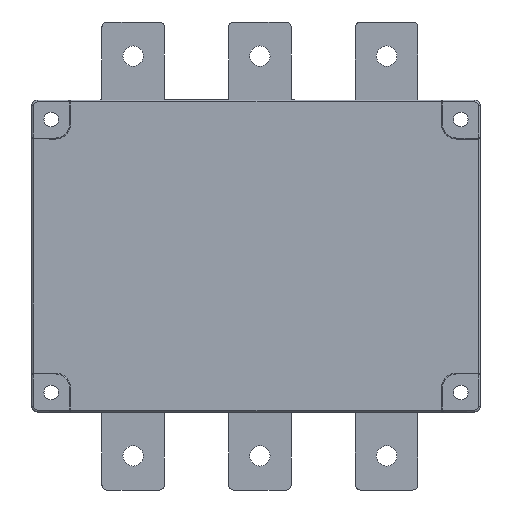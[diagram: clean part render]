
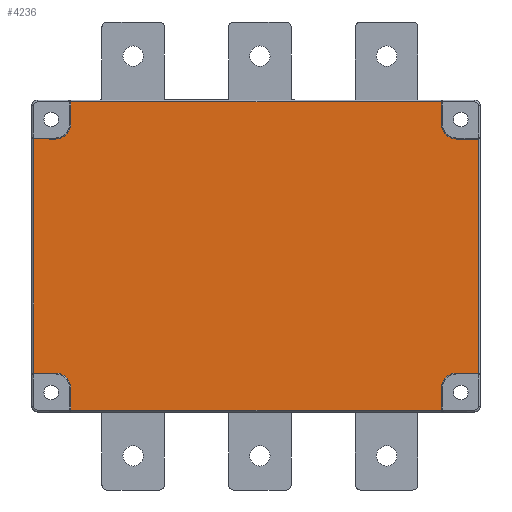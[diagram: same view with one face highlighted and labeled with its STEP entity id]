
A CAD part, front view. The second image highlights one B-rep face of the part: STEP entity #4236.
In plain terms, the highlighted planar face has unit normal (0, -1, 0).
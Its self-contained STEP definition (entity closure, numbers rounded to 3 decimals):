
#1112=DIRECTION('',(0.,0.,-1.));
#1113=VECTOR('',#1112,120.);
#1114=CARTESIAN_POINT('',(-114.,2.,60.));
#1115=LINE('',#1114,#1113);
#1129=DIRECTION('',(0.,0.,-1.));
#1130=VECTOR('',#1129,11.);
#1131=CARTESIAN_POINT('',(95.,2.,79.));
#1132=LINE('',#1131,#1130);
#1133=CARTESIAN_POINT('',(103.,2.,68.));
#1134=DIRECTION('',(0.,-1.,0.));
#1135=DIRECTION('',(-1.,0.,0.));
#1136=AXIS2_PLACEMENT_3D('',#1133,#1134,#1135);
#1138=DIRECTION('',(1.,0.,0.));
#1139=VECTOR('',#1138,11.);
#1140=CARTESIAN_POINT('',(103.,2.,60.));
#1141=LINE('',#1140,#1139);
#1142=DIRECTION('',(-1.,0.,0.));
#1143=VECTOR('',#1142,11.);
#1144=CARTESIAN_POINT('',(114.,2.,-60.));
#1145=LINE('',#1144,#1143);
#1146=CARTESIAN_POINT('',(103.,2.,-68.));
#1147=DIRECTION('',(0.,-1.,0.));
#1148=DIRECTION('',(0.,0.,1.));
#1149=AXIS2_PLACEMENT_3D('',#1146,#1147,#1148);
#1151=DIRECTION('',(0.,0.,-1.));
#1152=VECTOR('',#1151,11.);
#1153=CARTESIAN_POINT('',(95.,2.,-68.));
#1154=LINE('',#1153,#1152);
#1155=DIRECTION('',(0.,0.,1.));
#1156=VECTOR('',#1155,11.);
#1157=CARTESIAN_POINT('',(-95.,2.,
-79.));
#1158=LINE('',#1157,#1156);
#1159=CARTESIAN_POINT('',(-103.,2.,-68.));
#1160=DIRECTION('',(0.,-1.,0.));
#1161=DIRECTION('',(1.,0.,0.));
#1162=AXIS2_PLACEMENT_3D('',#1159,#1160,#1161);
#1164=DIRECTION('',(-1.,0.,0.));
#1165=VECTOR('',#1164,11.);
#1166=CARTESIAN_POINT('',(-103.,2.,-60.));
#1167=LINE('',#1166,#1165);
#1168=DIRECTION('',(1.,0.,0.));
#1169=VECTOR('',#1168,11.);
#1170=CARTESIAN_POINT('',(-114.,2.,60.));
#1171=LINE('',#1170,#1169);
#1172=CARTESIAN_POINT('',(-103.,2.,68.));
#1173=DIRECTION('',(0.,-1.,0.));
#1174=DIRECTION('',(0.,0.,-1.));
#1175=AXIS2_PLACEMENT_3D('',#1172,#1173,#1174);
#1177=DIRECTION('',(0.,0.,1.));
#1178=VECTOR('',#1177,11.);
#1179=CARTESIAN_POINT('',(-95.,2.,68.));
#1180=LINE('',#1179,#1178);
#1181=DIRECTION('',(-1.,0.,0.));
#1182=VECTOR('',#1181,190.);
#1183=CARTESIAN_POINT('',(95.,2.,79.));
#1184=LINE('',#1183,#1182);
#1545=DIRECTION('',(1.,0.,0.));
#1546=VECTOR('',#1545,190.);
#1547=CARTESIAN_POINT('',(-95.,2.,
-79.));
#1548=LINE('',#1547,#1546);
#1604=DIRECTION('',(0.,0.,1.));
#1605=VECTOR('',#1604,120.);
#1606=CARTESIAN_POINT('',(114.,2.,-60.));
#1607=LINE('',#1606,#1605);
#2192=CARTESIAN_POINT('',(95.,2.,79.));
#2193=CARTESIAN_POINT('',(-95.,2.,79.));
#2194=VERTEX_POINT('',#2192);
#2195=VERTEX_POINT('',#2193);
#2196=CARTESIAN_POINT('',(95.,2.,68.));
#2197=VERTEX_POINT('',#2196);
#2198=CARTESIAN_POINT('',(103.,2.,60.));
#2199=VERTEX_POINT('',#2198);
#2200=CARTESIAN_POINT('',(114.,2.,60.));
#2201=VERTEX_POINT('',#2200);
#2202=CARTESIAN_POINT('',(114.,2.,-60.));
#2203=VERTEX_POINT('',#2202);
#2204=CARTESIAN_POINT('',(103.,2.,-60.));
#2205=VERTEX_POINT('',#2204);
#2206=CARTESIAN_POINT('',(95.,2.,-68.));
#2207=VERTEX_POINT('',#2206);
#2208=CARTESIAN_POINT('',(95.,2.,-79.));
#2209=VERTEX_POINT('',#2208);
#2210=CARTESIAN_POINT('',(-95.,2.,
-79.));
#2211=VERTEX_POINT('',#2210);
#2212=CARTESIAN_POINT('',(-95.,2.,-68.));
#2213=VERTEX_POINT('',#2212);
#2214=CARTESIAN_POINT('',(-103.,2.,-60.));
#2215=VERTEX_POINT('',#2214);
#2216=CARTESIAN_POINT('',(-114.,2.,-60.));
#2217=VERTEX_POINT('',#2216);
#2218=CARTESIAN_POINT('',(-114.,2.,60.));
#2219=VERTEX_POINT('',#2218);
#2220=CARTESIAN_POINT('',(-103.,2.,60.));
#2221=VERTEX_POINT('',#2220);
#2222=CARTESIAN_POINT('',(-95.,2.,68.));
#2223=VERTEX_POINT('',#2222);
#4199=CARTESIAN_POINT('',(0.,2.,0.));
#4200=DIRECTION('',(0.,-1.,0.));
#4201=DIRECTION('',(-1.,0.,0.));
#4202=AXIS2_PLACEMENT_3D('',#4199,#4200,#4201);
#4203=PLANE('',#4202);
#4205=ORIENTED_EDGE('',*,*,#4204,.F.);
#4207=ORIENTED_EDGE('',*,*,#4206,.T.);
#4209=ORIENTED_EDGE('',*,*,#4208,.T.);
#4211=ORIENTED_EDGE('',*,*,#4210,.T.);
#4213=ORIENTED_EDGE('',*,*,#4212,.F.);
#4215=ORIENTED_EDGE('',*,*,#4214,.T.);
#4217=ORIENTED_EDGE('',*,*,#4216,.T.);
#4219=ORIENTED_EDGE('',*,*,#4218,.T.);
#4221=ORIENTED_EDGE('',*,*,#4220,.F.);
#4223=ORIENTED_EDGE('',*,*,#4222,.T.);
#4225=ORIENTED_EDGE('',*,*,#4224,.T.);
#4227=ORIENTED_EDGE('',*,*,#4226,.T.);
#4228=ORIENTED_EDGE('',*,*,#4191,.F.);
#4229=ORIENTED_EDGE('',*,*,#2575,.T.);
#4231=ORIENTED_EDGE('',*,*,#4230,.T.);
#4233=ORIENTED_EDGE('',*,*,#4232,.T.);
#4234=EDGE_LOOP('',(#4205,#4207,#4209,#4211,#4213,#4215,#4217,#4219,#4221,#4223,
#4225,#4227,#4228,#4229,#4231,#4233));
#4235=FACE_OUTER_BOUND('',#4234,.F.);
#1137=CIRCLE('',#1136,8.);
#1150=CIRCLE('',#1149,8.);
#1163=CIRCLE('',#1162,8.);
#1176=CIRCLE('',#1175,8.);
#2575=EDGE_CURVE('',#2219,#2221,#1171,.T.);
#4191=EDGE_CURVE('',#2219,#2217,#1115,.T.);
#4204=EDGE_CURVE('',#2194,#2195,#1184,.T.);
#4206=EDGE_CURVE('',#2194,#2197,#1132,.T.);
#4208=EDGE_CURVE('',#2197,#2199,#1137,.T.);
#4210=EDGE_CURVE('',#2199,#2201,#1141,.T.);
#4212=EDGE_CURVE('',#2203,#2201,#1607,.T.);
#4214=EDGE_CURVE('',#2203,#2205,#1145,.T.);
#4216=EDGE_CURVE('',#2205,#2207,#1150,.T.);
#4218=EDGE_CURVE('',#2207,#2209,#1154,.T.);
#4220=EDGE_CURVE('',#2211,#2209,#1548,.T.);
#4222=EDGE_CURVE('',#2211,#2213,#1158,.T.);
#4224=EDGE_CURVE('',#2213,#2215,#1163,.T.);
#4226=EDGE_CURVE('',#2215,#2217,#1167,.T.);
#4230=EDGE_CURVE('',#2221,#2223,#1176,.T.);
#4232=EDGE_CURVE('',#2223,#2195,#1180,.T.);
#4236=ADVANCED_FACE('',(#4235),#4203,.T.);
